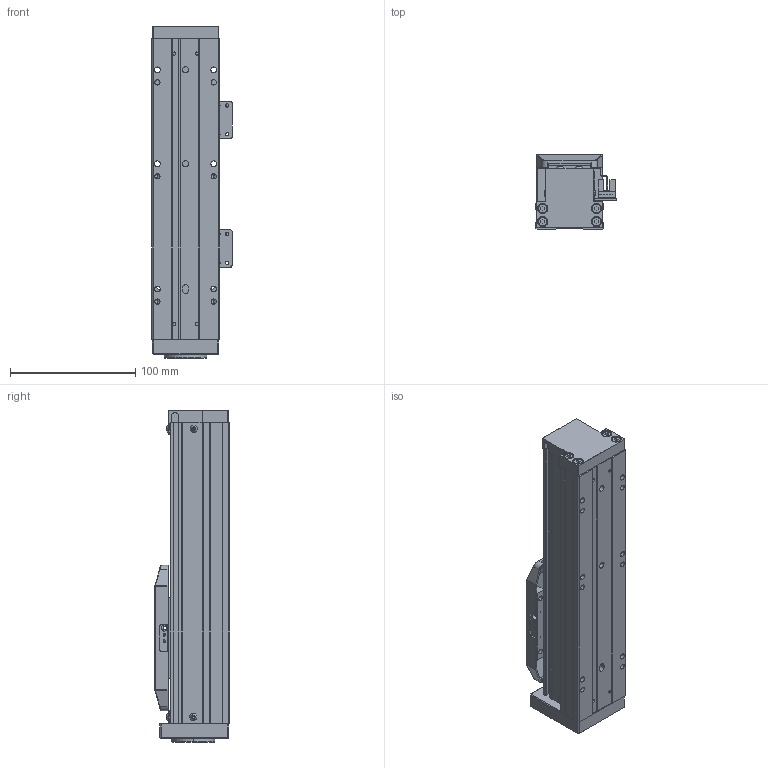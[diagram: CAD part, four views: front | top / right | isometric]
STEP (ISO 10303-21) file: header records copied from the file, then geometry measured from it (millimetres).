
FILE_DESCRIPTION (( 'STEP AP203' ), '1' );
FILE_NAME ('KTH5-L10-S100.STEP', '2019-12-19T07:17:24', ( '微软用户' ), ( '微软中国' ), 'SwSTEP 2.0', 'SolidWorks 2017', '' );
FILE_SCHEMA (( 'CONFIG_CONTROL_DESIGN' ));
Length unit declared in the file: millimetre
Products named in the file (16): 詩湍; KTH5-L10-S100; 詩湍揤啣; GB╱T 70.1-2008[内六角圆柱头螺钉M4×16]_M4×16; LES50-001菁釱; GB╱T 70.2-2008[内六角平圆头螺钉M3×10]_M3×10; LES50-004賑釱; ヶ裔-党蜊唳; 耜啣; 粣創釱-郔笝唳20190813; 階裔; 嫖萇羲壽諉揖え; 棠沭; EE-SX674; LES50-013癹弇菜; EE-SX674WR嫖萇羲壽假蚾啣
Assembly tree (31 placements, depth 2):
  KTH5-L10-S100
    LES50-001菁釱
    LES50-004賑釱
    耜啣  x2
    階裔
    棠沭  x2
    LES50-013癹弇菜  x2
    詩湍
    詩湍揤啣  x2
    GB╱T 70.1-2008[内六角圆柱头螺钉M4×16]_M4×16  x4
    GB╱T 70.2-2008[内六角平圆头螺钉M3×10]_M3×10  x8
    ヶ裔-党蜊唳
    粣創釱-郔笝唳20190813
    嫖萇羲壽諉揖え
    EE-SX674  x2
    EE-SX674WR嫖萇羲壽假蚾啣  x2
Bounding box: 64.25 x 60 x 265 mm (x, y, z)
Volume: 322327.1 mm3; surface area: 182481.6 mm2
Topology: 31 solids, 31 shells, 1357 faces, 3276 edges, 2012 vertices
Faces by surface type: plane 654, cylinder 423, cone 216, torus 36, sphere 16, bspline 12
Entity records: 30942 total; most frequent: CARTESIAN_POINT 5519, DIRECTION 5000, ORIENTED_EDGE 4652, EDGE_CURVE 2326, AXIS2_PLACEMENT_3D 1748, LINE 1504, VECTOR 1504, VERTEX_POINT 1477
